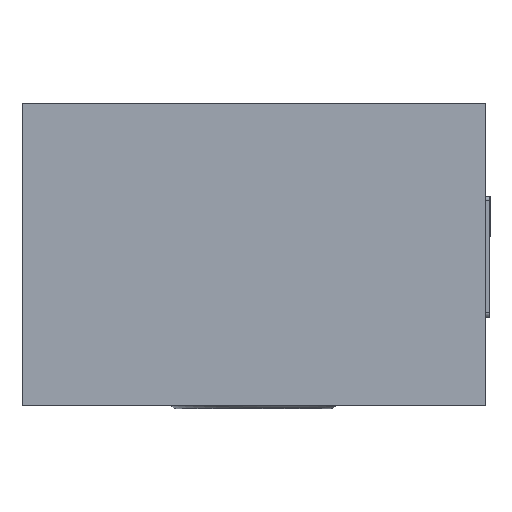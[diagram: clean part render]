
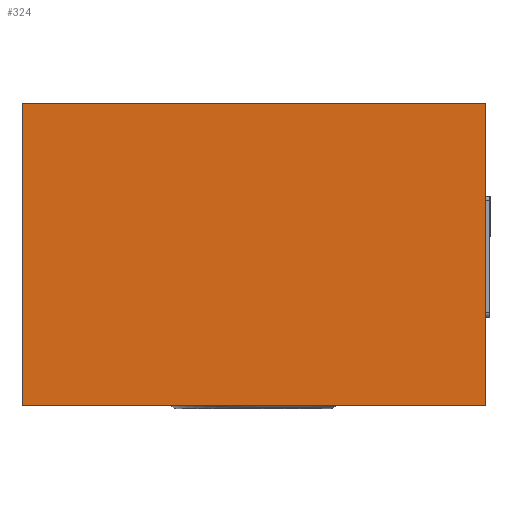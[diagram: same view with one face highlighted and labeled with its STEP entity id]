
A CAD part, left-side view. The second image highlights one B-rep face of the part: STEP entity #324.
In plain terms, the highlighted planar face has unit normal (-1, 0, 0).
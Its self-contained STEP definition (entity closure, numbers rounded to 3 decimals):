
#96=FACE_OUTER_BOUND('',#612,.T.);
#133=PLANE('',#1467);
#179=LINE('',#2110,#246);
#182=LINE('',#2118,#249);
#183=LINE('',#2120,#250);
#184=LINE('',#2122,#251);
#246=VECTOR('',#1651,1.);
#249=VECTOR('',#1658,1.);
#250=VECTOR('',#1661,1.);
#251=VECTOR('',#1662,1.);
#324=ADVANCED_FACE('',(#96),#133,.T.);
#612=EDGE_LOOP('',(#783,#784,#785,#786));
#783=ORIENTED_EDGE('',*,*,#1235,.F.);
#784=ORIENTED_EDGE('',*,*,#1234,.F.);
#785=ORIENTED_EDGE('',*,*,#1230,.T.);
#786=ORIENTED_EDGE('',*,*,#1236,.T.);
#1095=VERTEX_POINT('',#2105);
#1097=VERTEX_POINT('',#2109);
#1100=VERTEX_POINT('',#2116);
#1101=VERTEX_POINT('',#2121);
#1230=EDGE_CURVE('',#1095,#1097,#179,.T.);
#1234=EDGE_CURVE('',#1095,#1100,#182,.T.);
#1235=EDGE_CURVE('',#1100,#1101,#183,.T.);
#1236=EDGE_CURVE('',#1097,#1101,#184,.T.);
#1467=AXIS2_PLACEMENT_3D('',#2123,#1663,#1664);
#1651=DIRECTION('',(0.,-1.,0.));
#1658=DIRECTION('',(0.,0.,1.));
#1661=DIRECTION('',(0.,-1.,0.));
#1662=DIRECTION('',(0.,0.,1.));
#1663=DIRECTION('',(-1.,0.,0.));
#1664=DIRECTION('',(0.,0.,-1.));
#2105=CARTESIAN_POINT('',(3164.848,498.751,0.));
#2109=CARTESIAN_POINT('',(3164.848,383.751,0.));
#2110=CARTESIAN_POINT('',(3164.848,498.751,0.));
#2116=CARTESIAN_POINT('',(3164.848,498.751,75.));
#2118=CARTESIAN_POINT('',(3164.848,498.751,0.));
#2120=CARTESIAN_POINT('',(3164.848,498.751,75.));
#2121=CARTESIAN_POINT('',(3164.848,383.751,75.));
#2122=CARTESIAN_POINT('',(3164.848,383.751,0.));
#2123=CARTESIAN_POINT('',(3164.848,498.751,0.));
